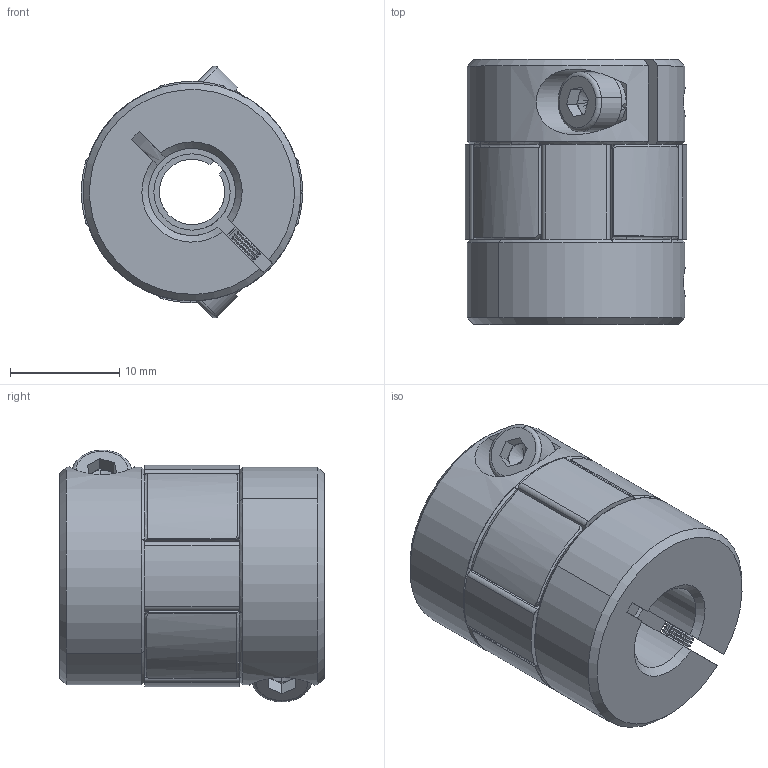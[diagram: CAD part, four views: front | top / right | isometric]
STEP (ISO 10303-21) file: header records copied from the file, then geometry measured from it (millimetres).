
FILE_DESCRIPTION (( 'STEP AP203' ), '1' );
FILE_NAME ('LF-B-D20L25-6-8.STEP', '2021-10-20T01:49:28', ( '' ), ( '' ), 'SwSTEP 2.0', 'SolidWorks 2018', '' );
FILE_SCHEMA (( 'CONFIG_CONTROL_DESIGN' ));
Length unit declared in the file: millimetre
Products named in the file (1): LF-B-D20L25-6-8
Bounding box: 20.31 x 24.3 x 23.09 mm (x, y, z)
Volume: 6434.8 mm3; surface area: 3579.1 mm2
Topology: 1 solids, 1 shells, 430 faces, 1072 edges, 635 vertices
Faces by surface type: cylinder 167, cone 158, plane 93, torus 12
Entity records: 13138 total; most frequent: CARTESIAN_POINT 2724, DIRECTION 2323, ORIENTED_EDGE 2136, EDGE_CURVE 1068, AXIS2_PLACEMENT_3D 956, VERTEX_POINT 635, CIRCLE 525, EDGE_LOOP 447
